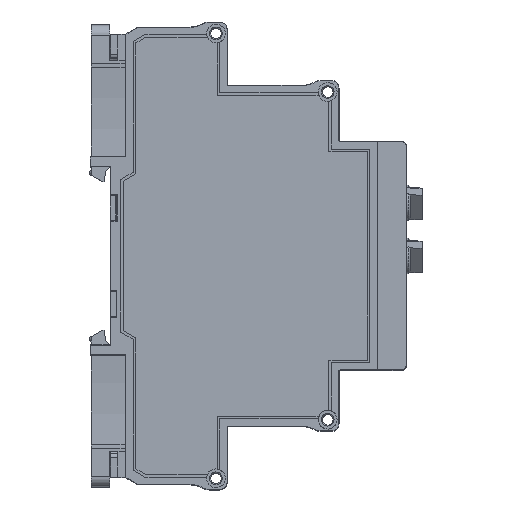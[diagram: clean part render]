
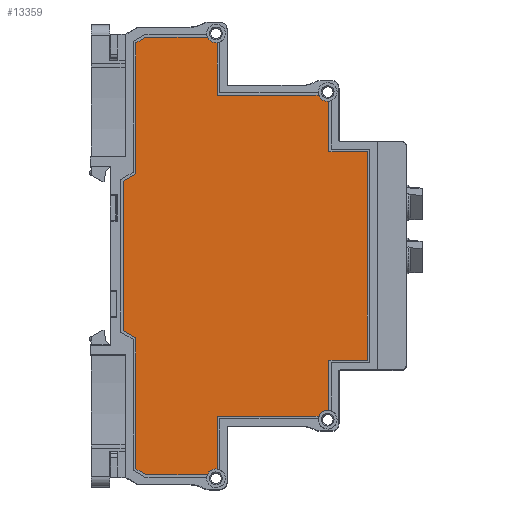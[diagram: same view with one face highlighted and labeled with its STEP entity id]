
A CAD part, top view. The second image highlights one B-rep face of the part: STEP entity #13359.
In plain terms, the highlighted planar face has unit normal (0, 0, 1) as drawn and (1, 0, 0) by its records, which use the part's own axes.
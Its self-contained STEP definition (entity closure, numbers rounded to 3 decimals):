
#13359=ADVANCED_FACE('',(#52836),#52838,.T.);
#52836=FACE_BOUND('',#52837,.T.);
#52837=EDGE_LOOP('',(#84748,#84749,#84750,#84751,#84752,#84753,#84754,#84755,#84756,
#84757,#84758,#84759,#84760,#84761,#84762,#84763,#84764,#84765,#84766,#84767,#84768,
#84769));
#52838=PLANE('',#52839);
#52839=AXIS2_PLACEMENT_3D('',#52840,#52841,#52842);
#52840=CARTESIAN_POINT('',(17.5,0.,0.));
#52841=DIRECTION('',(1.,0.,0.));
#52842=DIRECTION('',(0.,0.,-1.));
#84748=ORIENTED_EDGE('',*,*,#108295,.F.);
#84749=ORIENTED_EDGE('',*,*,#108296,.T.);
#84750=ORIENTED_EDGE('',*,*,#107973,.F.);
#84751=ORIENTED_EDGE('',*,*,#108297,.T.);
#84752=ORIENTED_EDGE('',*,*,#108298,.T.);
#84753=ORIENTED_EDGE('',*,*,#108299,.T.);
#84754=ORIENTED_EDGE('',*,*,#108300,.T.);
#84755=ORIENTED_EDGE('',*,*,#108301,.T.);
#84756=ORIENTED_EDGE('',*,*,#107959,.F.);
#84757=ORIENTED_EDGE('',*,*,#108294,.F.);
#84758=ORIENTED_EDGE('',*,*,#108302,.T.);
#84759=ORIENTED_EDGE('',*,*,#108011,.F.);
#84760=ORIENTED_EDGE('',*,*,#108303,.T.);
#84761=ORIENTED_EDGE('',*,*,#108304,.F.);
#84762=ORIENTED_EDGE('',*,*,#108305,.T.);
#84763=ORIENTED_EDGE('',*,*,#108306,.T.);
#84764=ORIENTED_EDGE('',*,*,#108307,.T.);
#84765=ORIENTED_EDGE('',*,*,#108308,.T.);
#84766=ORIENTED_EDGE('',*,*,#108309,.T.);
#84767=ORIENTED_EDGE('',*,*,#108310,.F.);
#84768=ORIENTED_EDGE('',*,*,#108311,.T.);
#84769=ORIENTED_EDGE('',*,*,#107984,.F.);
#107959=EDGE_CURVE('',#123039,#123031,#123041,.T.);
#107973=EDGE_CURVE('',#123061,#123063,#123064,.T.);
#107984=EDGE_CURVE('',#123080,#123082,#123083,.T.);
#108011=EDGE_CURVE('',#123124,#123118,#123126,.T.);
#108294=EDGE_CURVE('',#123576,#123039,#123578,.T.);
#108295=EDGE_CURVE('',#123579,#123080,#123580,.T.);
#108296=EDGE_CURVE('',#123579,#123063,#123581,.T.);
#108297=EDGE_CURVE('',#123061,#123582,#123583,.T.);
#108298=EDGE_CURVE('',#123582,#123584,#123585,.T.);
#108299=EDGE_CURVE('',#123584,#123586,#123587,.T.);
#108300=EDGE_CURVE('',#123586,#123588,#123589,.T.);
#108301=EDGE_CURVE('',#123588,#123031,#123590,.T.);
#108302=EDGE_CURVE('',#123576,#123118,#123591,.T.);
#108303=EDGE_CURVE('',#123124,#123592,#123593,.T.);
#108304=EDGE_CURVE('',#123594,#123592,#123595,.T.);
#108305=EDGE_CURVE('',#123594,#123596,#123597,.T.);
#108306=EDGE_CURVE('',#123596,#123598,#123599,.T.);
#108307=EDGE_CURVE('',#123598,#123600,#123601,.T.);
#108308=EDGE_CURVE('',#123600,#123602,#123603,.T.);
#108309=EDGE_CURVE('',#123602,#123604,#123605,.T.);
#108310=EDGE_CURVE('',#123606,#123604,#123607,.T.);
#108311=EDGE_CURVE('',#123606,#123082,#123608,.T.);
#123031=VERTEX_POINT('',#152793);
#123039=VERTEX_POINT('',#152811);
#123041=CIRCLE('',#152815,1.85);
#123061=VERTEX_POINT('',#152864);
#123063=VERTEX_POINT('',#152868);
#123064=CIRCLE('',#152869,1.85);
#123080=VERTEX_POINT('',#152909);
#123082=VERTEX_POINT('',#152913);
#123083=CIRCLE('',#152914,1.85);
#123118=VERTEX_POINT('',#152998);
#123124=VERTEX_POINT('',#153012);
#123126=CIRCLE('',#153016,1.85);
#123576=VERTEX_POINT('',#154073);
#123578=LINE('',#154077,#154078);
#123579=VERTEX_POINT('',#154080);
#123580=LINE('',#154081,#154082);
#123581=LINE('',#154084,#154085);
#123582=VERTEX_POINT('',#154087);
#123583=LINE('',#154088,#154089);
#123584=VERTEX_POINT('',#154091);
#123585=LINE('',#154092,#154093);
#123586=VERTEX_POINT('',#154095);
#123587=LINE('',#154096,#154097);
#123588=VERTEX_POINT('',#154099);
#123589=LINE('',#154100,#154101);
#123590=LINE('',#154103,#154104);
#123591=LINE('',#154106,#154107);
#123592=VERTEX_POINT('',#154109);
#123593=LINE('',#154110,#154111);
#123594=VERTEX_POINT('',#154113);
#123595=LINE('',#154114,#154115);
#123596=VERTEX_POINT('',#154117);
#123597=LINE('',#154118,#154119);
#123598=VERTEX_POINT('',#154121);
#123599=LINE('',#154122,#154123);
#123600=VERTEX_POINT('',#154125);
#123601=LINE('',#154126,#154127);
#123602=VERTEX_POINT('',#154129);
#123603=LINE('',#154130,#154131);
#123604=VERTEX_POINT('',#154133);
#123605=LINE('',#154134,#154135);
#123606=VERTEX_POINT('',#154137);
#123607=LINE('',#154138,#154139);
#123608=LINE('',#154141,#154142);
#152793=CARTESIAN_POINT('',(17.5,-30.541,38.985));
#152811=CARTESIAN_POINT('',(17.5,-31.7,37.015));
#152815=AXIS2_PLACEMENT_3D('',#152816,#152817,#152818);
#152816=CARTESIAN_POINT('',(17.5,-32.375,38.738));
#152817=DIRECTION('',(1.,0.,0.));
#152818=DIRECTION('',(0.,0.365,-0.931));
#152864=CARTESIAN_POINT('',(17.5,30.541,38.985));
#152868=CARTESIAN_POINT('',(17.5,31.7,37.015));
#152869=AXIS2_PLACEMENT_3D('',#152870,#152871,#152872);
#152870=CARTESIAN_POINT('',(17.5,32.375,38.738));
#152871=DIRECTION('',(1.,0.,0.));
#152872=DIRECTION('',(0.,-0.991,0.134));
#152909=CARTESIAN_POINT('',(17.5,42.103,16.897));
#152913=CARTESIAN_POINT('',(17.5,43.2,14.953));
#152914=AXIS2_PLACEMENT_3D('',#152915,#152916,#152917);
#152915=CARTESIAN_POINT('',(17.5,43.937,16.65));
#152916=DIRECTION('',(1.,0.,0.));
#152917=DIRECTION('',(0.,-0.991,0.134));
#152998=CARTESIAN_POINT('',(17.5,-42.103,16.897));
#153012=CARTESIAN_POINT('',(17.5,-43.2,14.953));
#153016=AXIS2_PLACEMENT_3D('',#153017,#153018,#153019);
#153017=CARTESIAN_POINT('',(17.5,-43.937,16.65));
#153018=DIRECTION('',(1.,0.,0.));
#153019=DIRECTION('',(0.,0.398,-0.917));
#154073=CARTESIAN_POINT('',(17.5,-31.7,16.897));
#154077=CARTESIAN_POINT('',(17.5,-31.7,16.897));
#154078=VECTOR('',#154079,1.);
#154079=DIRECTION('',(0.,0.,1.));
#154080=CARTESIAN_POINT('',(17.5,31.7,16.897));
#154081=CARTESIAN_POINT('',(17.5,31.7,16.897));
#154082=VECTOR('',#154083,1.);
#154083=DIRECTION('',(0.,1.,0.));
#154084=CARTESIAN_POINT('',(17.5,31.7,16.897));
#154085=VECTOR('',#154086,1.);
#154086=DIRECTION('',(0.,0.,1.));
#154087=CARTESIAN_POINT('',(17.5,20.6,38.985));
#154088=CARTESIAN_POINT('',(17.5,30.541,38.985));
#154089=VECTOR('',#154090,1.);
#154090=DIRECTION('',(0.,-1.,0.));
#154091=CARTESIAN_POINT('',(17.5,20.6,46.53));
#154092=CARTESIAN_POINT('',(17.5,20.6,38.985));
#154093=VECTOR('',#154094,1.);
#154094=DIRECTION('',(0.,0.,1.));
#154095=CARTESIAN_POINT('',(17.5,-20.6,46.53));
#154096=CARTESIAN_POINT('',(17.5,20.6,46.53));
#154097=VECTOR('',#154098,1.);
#154098=DIRECTION('',(0.,-1.,0.));
#154099=CARTESIAN_POINT('',(17.5,-20.6,38.985));
#154100=CARTESIAN_POINT('',(17.5,-20.6,46.53));
#154101=VECTOR('',#154102,1.);
#154102=DIRECTION('',(0.,0.,-1.));
#154103=CARTESIAN_POINT('',(17.5,-20.6,38.985));
#154104=VECTOR('',#154105,1.);
#154105=DIRECTION('',(0.,-1.,0.));
#154106=CARTESIAN_POINT('',(17.5,-31.7,16.897));
#154107=VECTOR('',#154108,1.);
#154108=DIRECTION('',(0.,-1.,0.));
#154109=CARTESIAN_POINT('',(17.5,-43.2,2.761));
#154110=CARTESIAN_POINT('',(17.5,-43.2,14.953));
#154111=VECTOR('',#154112,1.);
#154112=DIRECTION('',(0.,0.,-1.));
#154113=CARTESIAN_POINT('',(17.5,-42.068,0.8));
#154114=CARTESIAN_POINT('',(17.5,-42.068,0.8));
#154115=VECTOR('',#154116,1.);
#154116=DIRECTION('',(0.,-0.5,0.866));
#154117=CARTESIAN_POINT('',(17.5,-16.211,0.8));
#154118=CARTESIAN_POINT('',(17.5,-42.068,0.8));
#154119=VECTOR('',#154120,1.);
#154120=DIRECTION('',(0.,1.,0.));
#154121=CARTESIAN_POINT('',(17.5,-14.768,-1.7));
#154122=CARTESIAN_POINT('',(17.5,-16.211,0.8));
#154123=VECTOR('',#154124,1.);
#154124=DIRECTION('',(0.,0.5,-0.866));
#154125=CARTESIAN_POINT('',(17.5,14.768,-1.7));
#154126=CARTESIAN_POINT('',(17.5,-14.768,-1.7));
#154127=VECTOR('',#154128,1.);
#154128=DIRECTION('',(0.,1.,0.));
#154129=CARTESIAN_POINT('',(17.5,16.211,0.8));
#154130=CARTESIAN_POINT('',(17.5,14.768,-1.7));
#154131=VECTOR('',#154132,1.);
#154132=DIRECTION('',(0.,0.5,0.866));
#154133=CARTESIAN_POINT('',(17.5,42.068,0.8));
#154134=CARTESIAN_POINT('',(17.5,16.211,0.8));
#154135=VECTOR('',#154136,1.);
#154136=DIRECTION('',(0.,1.,0.));
#154137=CARTESIAN_POINT('',(17.5,43.2,2.761));
#154138=CARTESIAN_POINT('',(17.5,43.2,2.761));
#154139=VECTOR('',#154140,1.);
#154140=DIRECTION('',(0.,-0.5,-0.866));
#154141=CARTESIAN_POINT('',(17.5,43.2,2.761));
#154142=VECTOR('',#154143,1.);
#154143=DIRECTION('',(0.,0.,1.));
